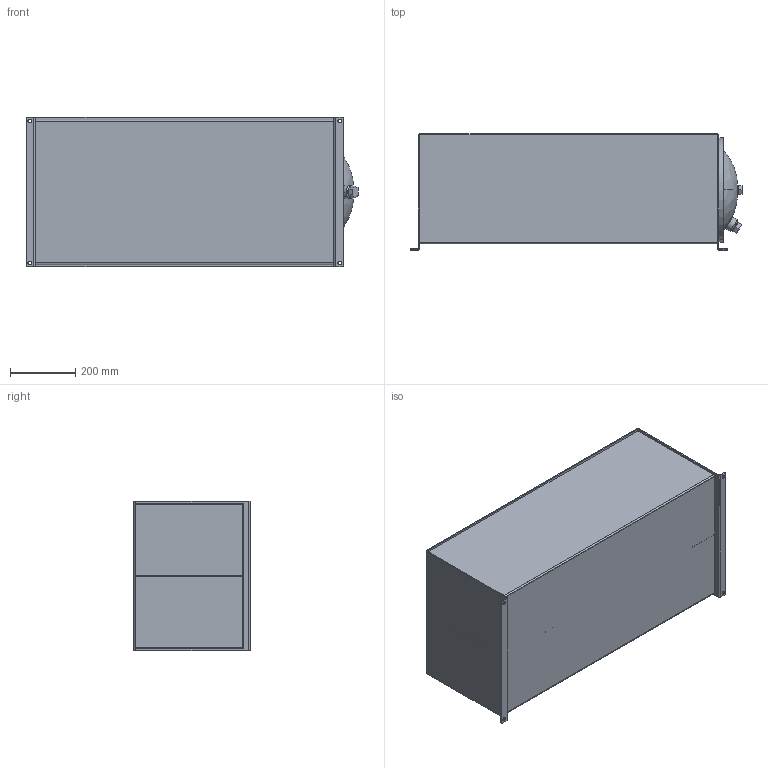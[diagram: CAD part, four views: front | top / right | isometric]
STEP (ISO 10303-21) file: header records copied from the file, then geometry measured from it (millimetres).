
FILE_DESCRIPTION (( 'STEP AP214' ), '1' );
FILE_NAME ('TH-30-FAB.STEP', '2019-08-15T14:57:54', ( '' ), ( '' ), 'SwSTEP 2.0', 'SolidWorks 2013', '' );
FILE_SCHEMA (( 'AUTOMOTIVE_DESIGN' ));
Length unit declared in the file: inch
Products named in the file (11): DRAIN; 12.00 END COVER WITH DRAIN; CRUSH WASHER; 12.00 GASKET; 0.625 - 11 BAFFLE NUT; 0.625 - 11 HEX BOLT; TH-30-BFL; TH-30-BDY; TH-30-TOP; TH-30-FAB; TL-ECD-12
Assembly tree (10 placements, depth 3):
  TH-30-FAB
    TH-30-TOP
    TH-30-BDY
    TH-30-BFL
    TL-ECD-12
      0.625 - 11 HEX BOLT
      0.625 - 11 BAFFLE NUT
      12.00 GASKET
      CRUSH WASHER
      12.00 END COVER WITH DRAIN
      DRAIN
Bounding box: 1016.61 x 355.6 x 457.2 mm (x, y, z)
Volume: 7449477.6 mm3; surface area: 4306016.2 mm2
Topology: 10 solids, 10 shells, 178 faces, 404 edges, 252 vertices
Faces by surface type: plane 98, cylinder 70, cone 6, bspline 4
Entity records: 6505 total; most frequent: CARTESIAN_POINT 1102, DIRECTION 924, ORIENTED_EDGE 808, EDGE_CURVE 404, AXIS2_PLACEMENT_3D 340, VERTEX_POINT 252, LINE 244, VECTOR 244
